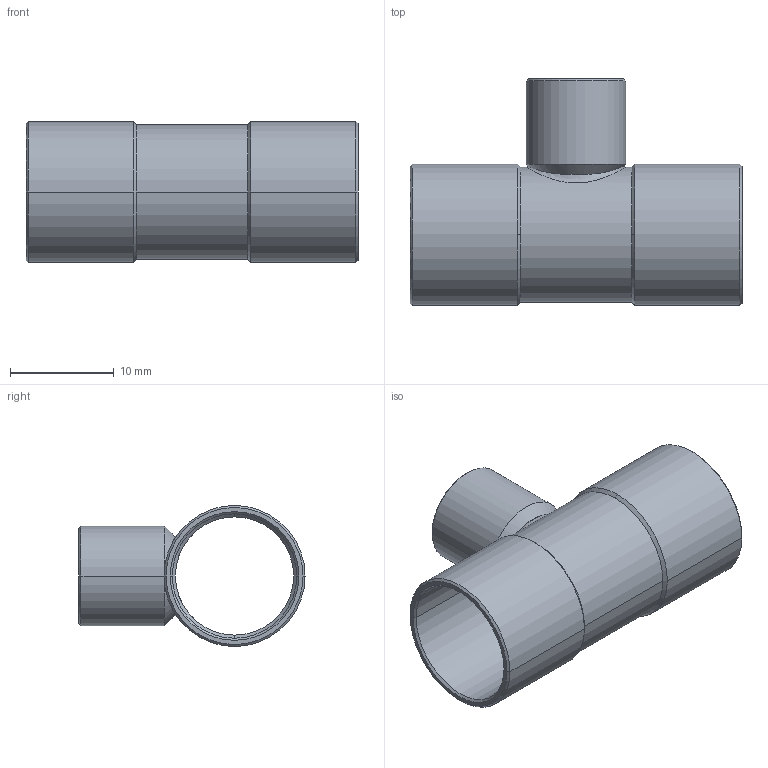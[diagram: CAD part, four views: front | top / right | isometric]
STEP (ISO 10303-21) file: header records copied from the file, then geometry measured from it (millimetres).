
FILE_DESCRIPTION((''),'2;1');
FILE_NAME('P:\Bouwmaten\z-maattekeningen 3D\5000\5130\513012812.stp','2005-10-26T11:52:38',('Kris'),(''),'Autodesk Inventor 8','Autodesk Inventor 8','');
FILE_SCHEMA(('AUTOMOTIVE_DESIGN { 1 0 10303 214 1 1 1 1 }'));
Length unit declared in the file: millimetre
Products named in the file (1): 513012812
Bounding box: 32 x 21.8 x 13.6 mm (x, y, z)
Volume: 1188.9 mm3; surface area: 3041 mm2
Topology: 1 solids, 1 shells, 49 faces, 128 edges, 80 vertices
Faces by surface type: cone 20, cylinder 16, bspline 10, plane 3
Entity records: 2044 total; most frequent: CARTESIAN_POINT 828, ORIENTED_EDGE 256, DIRECTION 252, EDGE_CURVE 128, AXIS2_PLACEMENT_3D 105, VERTEX_POINT 80, CIRCLE 65, EDGE_LOOP 52
